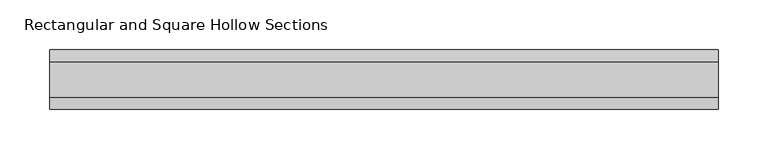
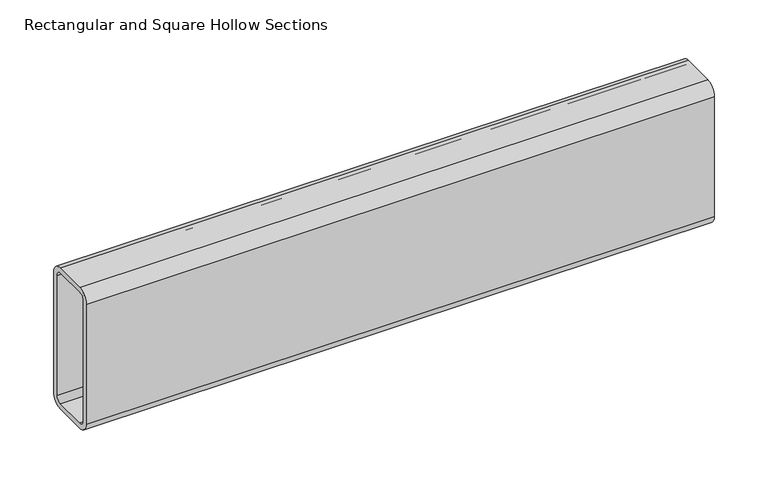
"""IFC4 building model written with IfcOpenShell, lengths in millimetres: beam geometry, Rectangular and Square Hollow Sections : TREC160x60x6."""

from ifc_helpers import new_model, si_unit, point, frame, frame_2d, origin, place, context, project, spatial, polyline, circle_curve, trimmed, segment, composite_curve, outline, extrude, source, transform, mapped, element, save


def rectangular_and_square_hollow_sections_eae4e9b7(model_context):
    return source(origin(), model_context, "Body", "SweptSolid", [
        extrude(outline(composite_curve([segment(polyline([(30.0, 68.0), (30.0, -68.0)]), True, "CONTINUOUS"), segment(trimmed(circle_curve(frame_2d((18.0, -68.0)), 12.0), [point((30.0, -68.0))], [point((18.0, -80.0))], False, "CARTESIAN"), True, "CONTINUOUS"), segment(polyline([(18.0, -80.0), (-18.0, -80.0)]), True, "CONTINUOUS"), segment(trimmed(circle_curve(frame_2d((-18.0, -68.0)), 12.0), [point((-18.0, -80.0))], [point((-30.0, -68.0))], False, "CARTESIAN"), True, "CONTINUOUS"), segment(polyline([(-30.0, -68.0), (-30.0, 68.0)]), True, "CONTINUOUS"), segment(trimmed(circle_curve(frame_2d((-18.0, 68.0)), 12.0), [point((-30.0, 68.0))], [point((-18.0, 80.0))], False, "CARTESIAN"), True, "CONTINUOUS"), segment(polyline([(-18.0, 80.0), (18.0, 80.0)]), True, "CONTINUOUS"), segment(trimmed(circle_curve(frame_2d((18.0, 68.0)), 12.0), [point((18.0, 80.0))], [point((30.0, 68.0))], False, "CARTESIAN"), True, "CONTINUOUS")], self_intersect=False), holes=[composite_curve([segment(trimmed(circle_curve(frame_2d((-18.0, 68.0)), 6.0), [point((-18.0, 74.0))], [point((-24.0, 68.0))], True, "CARTESIAN"), True, "CONTINUOUS"), segment(polyline([(-24.0, 68.0), (-24.0, -68.0)]), True, "CONTINUOUS"), segment(trimmed(circle_curve(frame_2d((-18.0, -68.0)), 6.0), [point((-24.0, -68.0))], [point((-18.0, -74.0))], True, "CARTESIAN"), True, "CONTINUOUS"), segment(polyline([(-18.0, -74.0), (18.0, -74.0)]), True, "CONTINUOUS"), segment(trimmed(circle_curve(frame_2d((18.0, -68.0)), 6.0), [point((18.0, -74.0))], [point((24.0, -68.0))], True, "CARTESIAN"), True, "CONTINUOUS"), segment(polyline([(24.0, -68.0), (24.0, 68.0)]), True, "CONTINUOUS"), segment(trimmed(circle_curve(frame_2d((18.0, 68.0)), 6.0), [point((24.0, 68.0))], [point((18.0, 74.0))], True, "CARTESIAN"), True, "CONTINUOUS"), segment(polyline([(18.0, 74.0), (-18.0, 74.0)]), True, "CONTINUOUS")], self_intersect=False)]), frame((-358.5, 0.0, 0.0), z_axis=(1.0, 0.0, 0.0), x_axis=(0.0, 1.0, 0.0)), (0.0, 0.0, 1.0), 673.0),
    ])


if __name__ == "__main__":
    model = new_model("IFC4")
    model_context = context("Model", 3, world=origin())
    ifc_project = project(units=[si_unit("LENGTHUNIT", "METRE", prefix="MILLI")], contexts=[model_context])
    site = spatial("IfcSite", under=ifc_project)
    building = spatial("IfcBuilding", under=site)
    placement = place(None, origin())
    rectangular_and_square_hollow_sections_shape = rectangular_and_square_hollow_sections_eae4e9b7(model_context)
    element("IfcBeam", 1, ObjectType="Rectangular and Square Hollow Sections : TREC160x60x6", at=placement, inside=building, context=model_context, shape_type="MappedRepresentation", body=[
        mapped(rectangular_and_square_hollow_sections_shape, transform((0.0, 0.0, 0.0), x_axis=(1.0, 0.0, 0.0), y_axis=(0.0, 1.0, 0.0), z_axis=(0.0, 0.0, 1.0))),
    ])
    save(model, "model.ifc")
